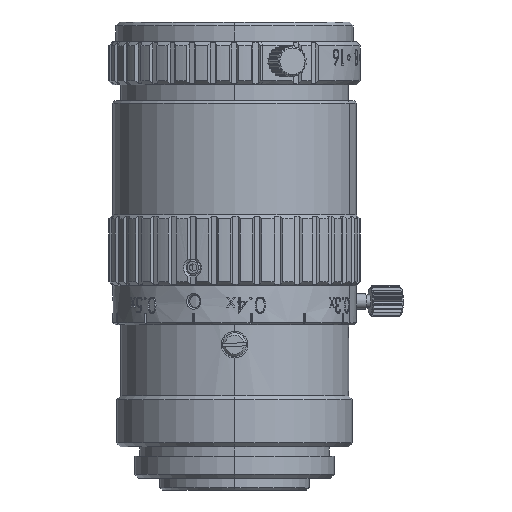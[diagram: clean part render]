
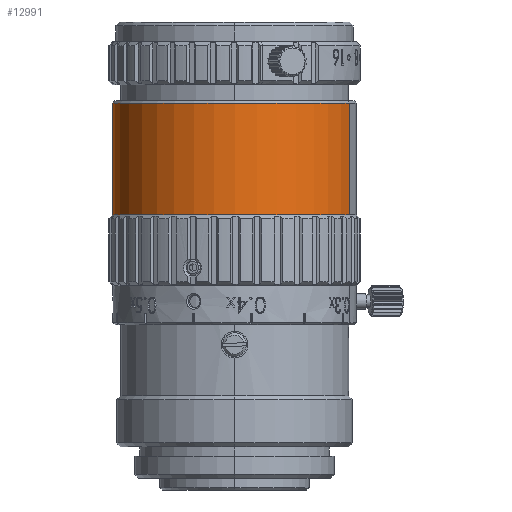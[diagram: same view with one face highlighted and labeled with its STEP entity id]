
A CAD part, left-side view. The second image highlights one B-rep face of the part: STEP entity #12991.
In plain terms, the highlighted cylindrical face has radius 15.5 mm (diameter 31 mm), a partial arc.
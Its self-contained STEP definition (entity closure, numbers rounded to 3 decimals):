
#646 = CARTESIAN_POINT ( 'NONE',  ( 5.199, 14.602, 23.831 ) ) ;
#648 = CARTESIAN_POINT ( 'NONE',  ( -5.199, -14.602, 23.831 ) ) ;
#1021 = CARTESIAN_POINT ( 'NONE',  ( -5.199, -14.602, 9.631 ) ) ;
#1357 = CARTESIAN_POINT ( 'NONE',  ( 5.199, 14.602, 9.631 ) ) ;
#7496 = AXIS2_PLACEMENT_3D ( 'NONE', #42787, #42788, #42789 ) ;
#7784 = CIRCLE ( 'NONE', #7496, 15.5 ) ;
#7998 = AXIS2_PLACEMENT_3D ( 'NONE', #39642, #39643, #39644 ) ;
#8031 = CIRCLE ( 'NONE', #7998, 15.5 ) ;
#8039 = VECTOR ( 'NONE', #39941, 1000. ) ;
#8088 = VECTOR ( 'NONE', #39937, 1000. ) ;
#12991 = ADVANCED_FACE ( 'NONE', ( #38861 ), #38863, .T. ) ;
#15643 = EDGE_CURVE ( 'NONE', #54858, #54856, #7784, .T. ) ;
#15755 = EDGE_CURVE ( 'NONE', #55429, #55185, #8031, .T. ) ;
#15835 = EDGE_CURVE ( 'NONE', #55185, #54858, #39930, .T. ) ;
#15836 = EDGE_CURVE ( 'NONE', #55429, #54856, #39938, .T. ) ;
#29934 = AXIS2_PLACEMENT_3D ( 'NONE', #38862, #38857, #38864 ) ;
#38857 = DIRECTION ( 'NONE',  ( 0., 0., 1. ) ) ;
#38861 = FACE_OUTER_BOUND ( 'NONE', #54557, .T. ) ;
#38862 = CARTESIAN_POINT ( 'NONE',  ( 0., 0., 19.096 ) ) ;
#38863 = CYLINDRICAL_SURFACE ( 'NONE', #29934, 15.5 ) ;
#38864 = DIRECTION ( 'NONE',  ( 0.335, 0.942, 0. ) ) ;
#39642 = CARTESIAN_POINT ( 'NONE',  ( 0., 0., 9.631 ) ) ;
#39643 = DIRECTION ( 'NONE',  ( 0., 0., 1. ) ) ;
#39644 = DIRECTION ( 'NONE',  ( 0.335, 0.942, 0. ) ) ;
#39930 = LINE ( 'NONE', #39936, #8088 ) ;
#39936 = CARTESIAN_POINT ( 'NONE',  ( -5.199, -14.602, 19.096 ) ) ;
#39937 = DIRECTION ( 'NONE',  ( 0., 0., 1. ) ) ;
#39938 = LINE ( 'NONE', #39940, #8039 ) ;
#39940 = CARTESIAN_POINT ( 'NONE',  ( 5.199, 14.602, 19.096 ) ) ;
#39941 = DIRECTION ( 'NONE',  ( 0., 0., 1. ) ) ;
#42787 = CARTESIAN_POINT ( 'NONE',  ( 0., 0., 23.831 ) ) ;
#42788 = DIRECTION ( 'NONE',  ( 0., 0., -1. ) ) ;
#42789 = DIRECTION ( 'NONE',  ( -0.335, -0.942, 0. ) ) ;
#54557 = EDGE_LOOP ( 'NONE', ( #56892, #55944, #56277, #56444 ) ) ;
#54856 = VERTEX_POINT ( 'NONE', #646 ) ;
#54858 = VERTEX_POINT ( 'NONE', #648 ) ;
#55185 = VERTEX_POINT ( 'NONE', #1021 ) ;
#55429 = VERTEX_POINT ( 'NONE', #1357 ) ;
#55944 = ORIENTED_EDGE ( 'NONE', *, *, #15835, .T. ) ;
#56277 = ORIENTED_EDGE ( 'NONE', *, *, #15643, .T. ) ;
#56444 = ORIENTED_EDGE ( 'NONE', *, *, #15836, .F. ) ;
#56892 = ORIENTED_EDGE ( 'NONE', *, *, #15755, .T. ) ;
